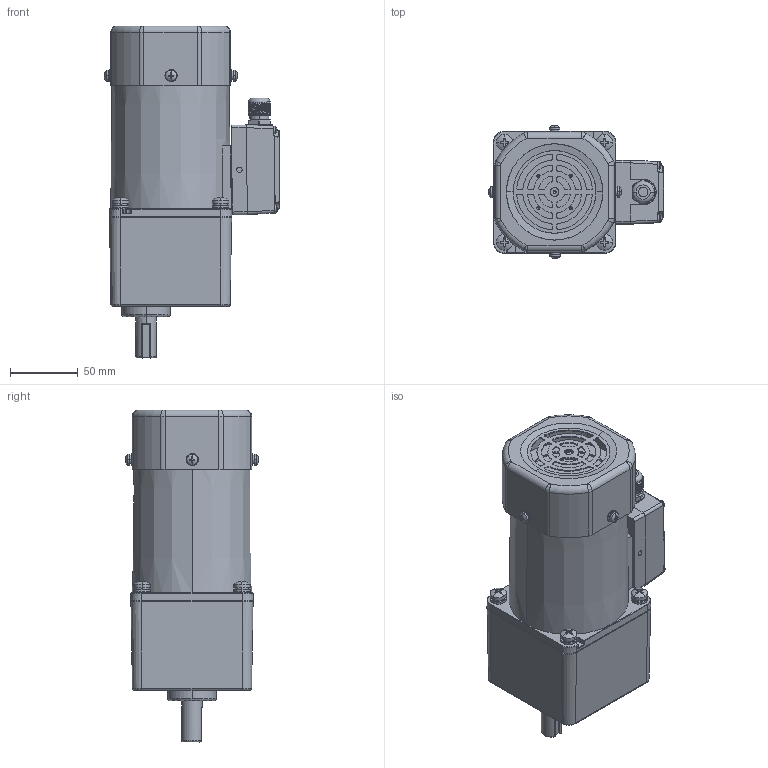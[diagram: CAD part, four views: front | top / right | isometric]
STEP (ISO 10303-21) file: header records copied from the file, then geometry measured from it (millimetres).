
FILE_DESCRIPTION (( 'STEP AP203' ), '1' );
FILE_NAME ('5IK120RGU-CFT(5GU3KB-200KB).STEP', '2023-08-09T02:31:12', ( 'Windows User' ), ( 'P R C' ), 'SwSTEP 2.0', 'SolidWorks 2019', '' );
FILE_SCHEMA (( 'CONFIG_CONTROL_DESIGN' ));
Length unit declared in the file: millimetre
Products named in the file (12): ^___5IK120RGU-CFT(5GU3KB-200KB)(2)_5IK120RGU-CFT(5GU3KB-200KB); ^__5IK120RGU-CFT(5GU3KB-200KB)(2)_5IK120RGU-CFT(5GU3KB-200KB); ^____5IK120RGU-CFT(5GU3KB-200KB)(2)_5IK120RGU-CFT(5GU3KB-200KB); 5IK120RGU-CFT(5GU3KB-200KB); ^_5IK120RGU-CFT(5GU3KB-200KB)(2)_5IK120RGU-CFT(5GU3KB-200KB); 葩璃 (3) ^____5IK120RGU-CFT(5GU3KB-200KB)(2)_5IK120RGU-CFT(5GU3KB-200KB); ^5IK120RGU-CFT(5GU3KB-200KB)(2)_5IK120RGU-CFT(5GU3KB-200KB); 葩璃 (2) ^__5IK120RGU-CFT(5GU3KB-200KB)(2)_5IK120RGU-CFT(5GU3KB-200KB); 5IK120RGU-CFT(5GU3KB-200KB)(2)^5IK120RGU-CFT(5GU3KB-200KB); 葩璃 (2) ^____5IK120RGU-CFT(5GU3KB-200KB)(2)_5IK120RGU-CFT(5GU3KB-200KB); 5GU3KB-200KB^5IK120RGU-CFT(5GU3KB-200KB)(2)_5IK120RGU-CFT(5GU3KB-200KB)
Assembly tree (14 placements, depth 7):
  5IK120RGU-CFT(5GU3KB-200KB)
    5IK120RGU-CFT(5GU3KB-200KB)(2)^5IK120RGU-CFT(5GU3KB-200KB)
      ^5IK120RGU-CFT(5GU3KB-200KB)(2)_5IK120RGU-CFT(5GU3KB-200KB)
        ^_5IK120RGU-CFT(5GU3KB-200KB)(2)_5IK120RGU-CFT(5GU3KB-200KB)
          ^__5IK120RGU-CFT(5GU3KB-200KB)(2)_5IK120RGU-CFT(5GU3KB-200KB)
            ^___5IK120RGU-CFT(5GU3KB-200KB)(2)_5IK120RGU-CFT(5GU3KB-200KB)
              ^____5IK120RGU-CFT(5GU3KB-200KB)(2)_5IK120RGU-CFT(5GU3KB-200KB)
              葩璃 (2) ^____5IK120RGU-CFT(5GU3KB-200KB)(2)_5IK120RGU-CFT(5GU3KB-200KB)
              葩璃 (3) ^____5IK120RGU-CFT(5GU3KB-200KB)(2)_5IK120RGU-CFT(5GU3KB-200KB)  x4
          ^__5IK120RGU-CFT(5GU3KB-200KB)(2)_5IK120RGU-CFT(5GU3KB-200KB)
          葩璃 (2) ^__5IK120RGU-CFT(5GU3KB-200KB)(2)_5IK120RGU-CFT(5GU3KB-200KB)
      5GU3KB-200KB^5IK120RGU-CFT(5GU3KB-200KB)(2)_5IK120RGU-CFT(5GU3KB-200KB)
Bounding box: 129.3 x 98.11 x 244.5 mm (x, y, z)
Volume: 1356075.8 mm3; surface area: 165181 mm2
Topology: 36 solids, 36 shells, 1754 faces, 4549 edges, 2876 vertices
Faces by surface type: cylinder 691, plane 477, cone 379, torus 100, sphere 73, bspline 34
Entity records: 48724 total; most frequent: CARTESIAN_POINT 13498, DIRECTION 7477, ORIENTED_EDGE 7014, EDGE_CURVE 3507, AXIS2_PLACEMENT_3D 3057, VERTEX_POINT 2259, CIRCLE 1703, EDGE_LOOP 1486
